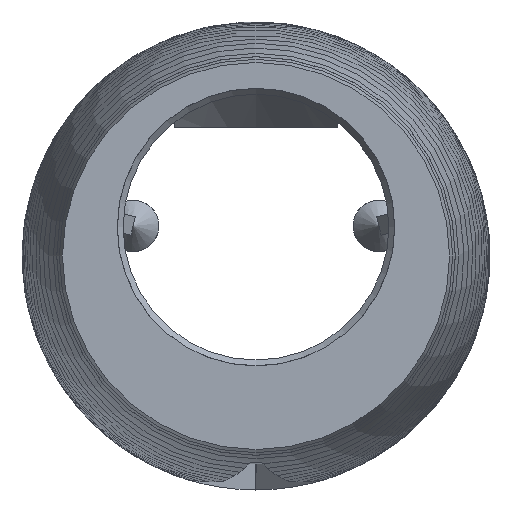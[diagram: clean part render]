
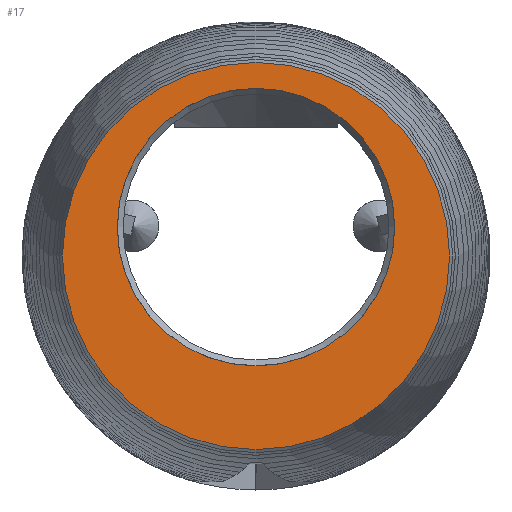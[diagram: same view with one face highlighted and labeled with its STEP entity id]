
A CAD part, left-side view. The second image highlights one B-rep face of the part: STEP entity #17.
In plain terms, the highlighted planar face has unit normal (-1, 0, 0).
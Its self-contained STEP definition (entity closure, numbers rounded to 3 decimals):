
#17 = ADVANCED_FACE('',(#18,#54),#31,.F.);
#18 = FACE_BOUND('',#19,.F.);
#19 = EDGE_LOOP('',(#20));
#20 = ORIENTED_EDGE('',*,*,#21,.F.);
#21 = EDGE_CURVE('',#22,#22,#24,.T.);
#22 = VERTEX_POINT('',#23);
#23 = CARTESIAN_POINT('',(18.4,0.,14.332));
#24 = SURFACE_CURVE('',#25,(#30,#42),.PCURVE_S1.);
#25 = CIRCLE('',#26,11.862);
#26 = AXIS2_PLACEMENT_3D('',#27,#28,#29);
#27 = CARTESIAN_POINT('',(18.4,0.,2.47));
#28 = DIRECTION('',(1.,0.,0.));
#29 = DIRECTION('',(0.,0.,1.));
#30 = PCURVE('',#31,#36);
#31 = PLANE('',#32);
#32 = AXIS2_PLACEMENT_3D('',#33,#34,#35);
#33 = CARTESIAN_POINT('',(18.4,-30.,-30.));
#34 = DIRECTION('',(1.,0.,-0.));
#35 = DIRECTION('',(0.,0.,1.));
#36 = DEFINITIONAL_REPRESENTATION('',(#37),#41);
#37 = CIRCLE('',#38,11.862);
#38 = AXIS2_PLACEMENT_2D('',#39,#40);
#39 = CARTESIAN_POINT('',(32.47,-30.));
#40 = DIRECTION('',(1.,0.));
#41 = ( GEOMETRIC_REPRESENTATION_CONTEXT(2) 
PARAMETRIC_REPRESENTATION_CONTEXT() REPRESENTATION_CONTEXT('2D SPACE',''
  ) );
#42 = PCURVE('',#43,#48);
#43 = CYLINDRICAL_SURFACE('',#44,11.862);
#44 = AXIS2_PLACEMENT_3D('',#45,#46,#47);
#45 = CARTESIAN_POINT('',(17.4,0.,2.47));
#46 = DIRECTION('',(1.,0.,0.));
#47 = DIRECTION('',(-0.,0.,1.));
#48 = DEFINITIONAL_REPRESENTATION('',(#49),#53);
#49 = LINE('',#50,#51);
#50 = CARTESIAN_POINT('',(0.,1.));
#51 = VECTOR('',#52,1.);
#52 = DIRECTION('',(1.,-0.));
#53 = ( GEOMETRIC_REPRESENTATION_CONTEXT(2) 
PARAMETRIC_REPRESENTATION_CONTEXT() REPRESENTATION_CONTEXT('2D SPACE',''
  ) );
#54 = FACE_BOUND('',#55,.F.);
#55 = EDGE_LOOP('',(#56));
#56 = ORIENTED_EDGE('',*,*,#57,.F.);
#57 = EDGE_CURVE('',#58,#58,#60,.T.);
#58 = VERTEX_POINT('',#59);
#59 = CARTESIAN_POINT('',(18.4,16.544,0.));
#60 = SURFACE_CURVE('',#61,(#66,#77),.PCURVE_S1.);
#61 = CIRCLE('',#62,16.544);
#62 = AXIS2_PLACEMENT_3D('',#63,#64,#65);
#63 = CARTESIAN_POINT('',(18.4,0.,0.));
#64 = DIRECTION('',(-1.,-0.,0.));
#65 = DIRECTION('',(-0.,1.,0.));
#66 = PCURVE('',#31,#67);
#67 = DEFINITIONAL_REPRESENTATION('',(#68),#76);
#68 = ( BOUNDED_CURVE() B_SPLINE_CURVE(2,(#69,#70,#71,#72,#73,#74,#75),
.UNSPECIFIED.,.T.,.F.) B_SPLINE_CURVE_WITH_KNOTS((1,2,2,2,2,1),(
    -2.094,0.,2.094,4.189,6.283,
8.378),.UNSPECIFIED.) CURVE() GEOMETRIC_REPRESENTATION_ITEM() 
RATIONAL_B_SPLINE_CURVE((1.,0.5,1.,0.5,1.,0.5,1.)) REPRESENTATION_ITEM(
  '') );
#69 = CARTESIAN_POINT('',(30.,-46.544));
#70 = CARTESIAN_POINT('',(1.345,-46.544));
#71 = CARTESIAN_POINT('',(15.672,-21.728));
#72 = CARTESIAN_POINT('',(30.,3.088));
#73 = CARTESIAN_POINT('',(44.328,-21.728));
#74 = CARTESIAN_POINT('',(58.655,-46.544));
#75 = CARTESIAN_POINT('',(30.,-46.544));
#76 = ( GEOMETRIC_REPRESENTATION_CONTEXT(2) 
PARAMETRIC_REPRESENTATION_CONTEXT() REPRESENTATION_CONTEXT('2D SPACE',''
  ) );
#77 = PCURVE('',#78,#83);
#78 = CONICAL_SURFACE('',#79,16.544,0.305);
#79 = AXIS2_PLACEMENT_3D('',#80,#81,#82);
#80 = CARTESIAN_POINT('',(18.4,0.,0.));
#81 = DIRECTION('',(1.,0.,0.));
#82 = DIRECTION('',(-0.,1.,0.));
#83 = DEFINITIONAL_REPRESENTATION('',(#84),#88);
#84 = LINE('',#85,#86);
#85 = CARTESIAN_POINT('',(6.283,0.));
#86 = VECTOR('',#87,1.);
#87 = DIRECTION('',(-1.,-0.));
#88 = ( GEOMETRIC_REPRESENTATION_CONTEXT(2) 
PARAMETRIC_REPRESENTATION_CONTEXT() REPRESENTATION_CONTEXT('2D SPACE',''
  ) );
